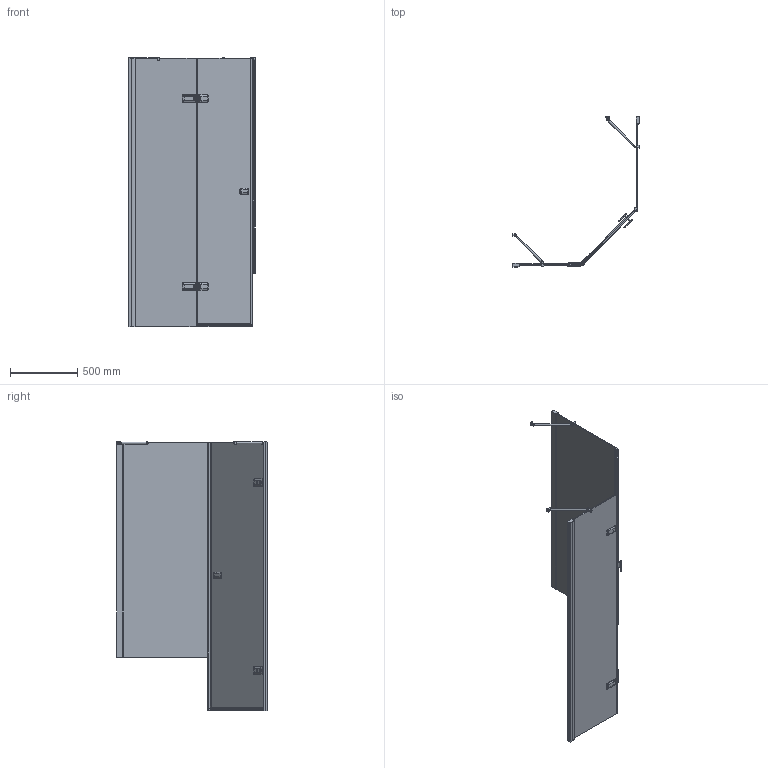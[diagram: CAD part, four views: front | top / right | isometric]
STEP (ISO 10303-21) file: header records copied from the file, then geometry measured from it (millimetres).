
FILE_DESCRIPTION(/* description */ (''),/* implementation_level */ '2;1');
FILE_NAME(/* name */ 'E:\Работа\Сергей\Душевые кабинки\! Работа\!!!!\TREND FESTT GK-863V\TREND FESTT GK-863V левая модель\TREND FESTT GK-863V ЛЕВАЯ-3D.stp',/* time_stamp */ '2017-12-20T18:34:37+03:00',/* author */ ('PC'),/* organization */ (''),/* preprocessor_version */ 'ST-DEVELOPER v15.2',/* originating_system */ 'Autodesk Inventor 2014',/* authorisation */ '');
FILE_SCHEMA (('AUTOMOTIVE_DESIGN { 1 0 10303 214 3 1 1 }'));
Products named in the file (1): TREND FESTT GK-863V ЛЕВАЯ-3D
Bounding box: 946.2 x 1118.2 x 2009.49 mm (x, y, z)
Volume: 28102802.4 mm3; surface area: 7078707.2 mm2
Topology: 7 solids, 12 shells, 1372 faces, 3720 edges, 2303 vertices
Faces by surface type: plane 812, cylinder 373, bspline 138, torus 22, cone 18, sphere 9
Full cylindrical faces by diameter (mm): 2.5 x4, 4 x3, 6 x2, 9 x8, 13 x2, 15 x2, 20 x4, 26 x2
Entity records: 59992 total; most frequent: CARTESIAN_POINT 24908, ORIENTED_EDGE 7248, DIRECTION 6860, EDGE_CURVE 3614, AXIS2_PLACEMENT_3D 2337, VERTEX_POINT 2279, LINE 2186, VECTOR 2186
